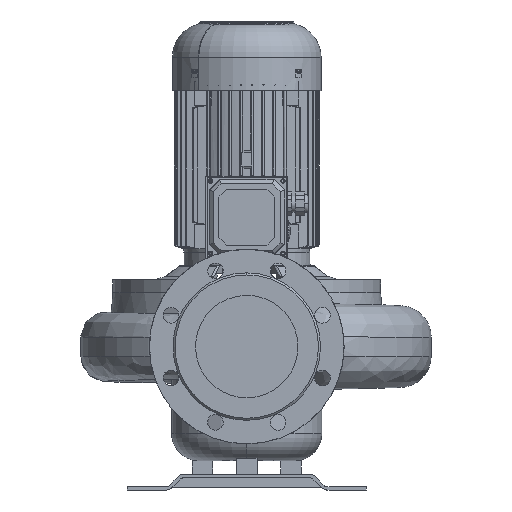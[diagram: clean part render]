
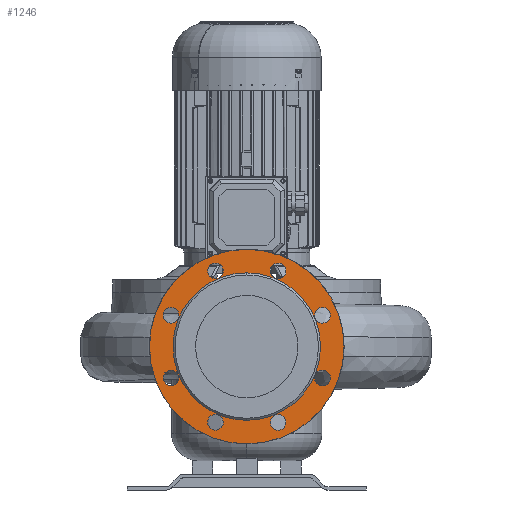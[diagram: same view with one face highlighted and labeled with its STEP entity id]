
A CAD part, front view. The second image highlights one B-rep face of the part: STEP entity #1246.
In plain terms, the highlighted planar face has unit normal (0, -1, 0) as drawn and (0, 1, 0) by its records, which use the part's own axes.
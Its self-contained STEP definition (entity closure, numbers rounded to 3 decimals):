
#1246=ADVANCED_FACE('',(#2458,#2459,#2460,#2461,#2462,#2463,#2464,#2465,#2466,#2467),#2468,.T.);
#1274=EDGE_CURVE('',#2511,#2512,#2513,.T.);
#1278=EDGE_CURVE('',#2519,#2520,#2521,.T.);
#1282=EDGE_CURVE('',#2527,#2528,#2529,.T.);
#1286=EDGE_CURVE('',#2535,#2536,#2537,.T.);
#1290=EDGE_CURVE('',#2543,#2544,#2545,.T.);
#1294=EDGE_CURVE('',#2551,#2552,#2553,.T.);
#1298=EDGE_CURVE('',#2559,#2560,#2561,.T.);
#1302=EDGE_CURVE('',#2567,#2568,#2569,.T.);
#1306=EDGE_CURVE('',#2575,#2576,#2577,.T.);
#1308=EDGE_CURVE('',#2579,#2580,#2581,.T.);
#1480=EDGE_CURVE('',#2580,#2579,#2839,.T.);
#1498=EDGE_CURVE('',#2576,#2575,#2857,.T.);
#1500=EDGE_CURVE('',#2568,#2567,#2859,.T.);
#1502=EDGE_CURVE('',#2560,#2559,#2861,.T.);
#1504=EDGE_CURVE('',#2552,#2551,#2863,.T.);
#1506=EDGE_CURVE('',#2544,#2543,#2865,.T.);
#1508=EDGE_CURVE('',#2536,#2535,#2867,.T.);
#1510=EDGE_CURVE('',#2528,#2527,#2869,.T.);
#1512=EDGE_CURVE('',#2520,#2519,#2871,.T.);
#1514=EDGE_CURVE('',#2512,#2511,#2873,.T.);
#2458=FACE_OUTER_BOUND('',#5705,.T.);
#2459=FACE_BOUND('',#5706,.T.);
#2460=FACE_BOUND('',#5707,.T.);
#2461=FACE_BOUND('',#5708,.T.);
#2462=FACE_BOUND('',#5709,.T.);
#2463=FACE_BOUND('',#5710,.T.);
#2464=FACE_BOUND('',#5711,.T.);
#2465=FACE_BOUND('',#5712,.T.);
#2466=FACE_BOUND('',#5713,.T.);
#2467=FACE_BOUND('',#5714,.T.);
#2468=PLANE('',#5715);
#2511=VERTEX_POINT('',#6779);
#2512=VERTEX_POINT('',#6780);
#2513=CIRCLE('',#6781,108.0);
#2519=VERTEX_POINT('',#6789);
#2520=VERTEX_POINT('',#6790);
#2521=CIRCLE('',#6791,11.5);
#2527=VERTEX_POINT('',#6799);
#2528=VERTEX_POINT('',#6800);
#2529=CIRCLE('',#6801,11.5);
#2535=VERTEX_POINT('',#6809);
#2536=VERTEX_POINT('',#6810);
#2537=CIRCLE('',#6811,11.5);
#2543=VERTEX_POINT('',#6819);
#2544=VERTEX_POINT('',#6820);
#2545=CIRCLE('',#6821,11.5);
#2551=VERTEX_POINT('',#6829);
#2552=VERTEX_POINT('',#6830);
#2553=CIRCLE('',#6831,11.5);
#2559=VERTEX_POINT('',#6839);
#2560=VERTEX_POINT('',#6840);
#2561=CIRCLE('',#6841,11.5);
#2567=VERTEX_POINT('',#6849);
#2568=VERTEX_POINT('',#6850);
#2569=CIRCLE('',#6851,11.5);
#2575=VERTEX_POINT('',#6859);
#2576=VERTEX_POINT('',#6860);
#2577=CIRCLE('',#6861,11.5);
#2579=VERTEX_POINT('',#6864);
#2580=VERTEX_POINT('',#6865);
#2581=CIRCLE('',#6866,142.5);
#2839=CIRCLE('',#7297,142.5);
#2857=CIRCLE('',#7324,11.5);
#2859=CIRCLE('',#7327,11.5);
#2861=CIRCLE('',#7330,11.5);
#2863=CIRCLE('',#7333,11.5);
#2865=CIRCLE('',#7336,11.5);
#2867=CIRCLE('',#7339,11.5);
#2869=CIRCLE('',#7342,11.5);
#2871=CIRCLE('',#7345,11.5);
#2873=CIRCLE('',#7348,108.0);
#5705=EDGE_LOOP('',(#12483,#12484));
#5706=EDGE_LOOP('',(#12485,#12486));
#5707=EDGE_LOOP('',(#12487,#12488));
#5708=EDGE_LOOP('',(#12489,#12490));
#5709=EDGE_LOOP('',(#12491,#12492));
#5710=EDGE_LOOP('',(#12493,#12494));
#5711=EDGE_LOOP('',(#12495,#12496));
#5712=EDGE_LOOP('',(#12497,#12498));
#5713=EDGE_LOOP('',(#12499,#12500));
#5714=EDGE_LOOP('',(#12501,#12502));
#5715=AXIS2_PLACEMENT_3D('',#12503,#12504,#12505);
#6779=CARTESIAN_POINT('',(0.,377.,-108.0));
#6780=CARTESIAN_POINT('',(0.,377.0,108.0));
#6781=AXIS2_PLACEMENT_3D('',#12607,#12608,#12609);
#6789=CARTESIAN_POINT('',(-117.353,377.0,-36.426));
#6790=CARTESIAN_POINT('',(-104.378,377.0,-55.418));
#6791=AXIS2_PLACEMENT_3D('',#12613,#12614,#12615);
#6799=CARTESIAN_POINT('',(-108.738,377.,57.224));
#6800=CARTESIAN_POINT('',(-112.993,377.,34.62));
#6801=AXIS2_PLACEMENT_3D('',#12619,#12620,#12621);
#6809=CARTESIAN_POINT('',(-36.426,377.,117.353));
#6810=CARTESIAN_POINT('',(-55.418,377.,104.378));
#6811=AXIS2_PLACEMENT_3D('',#12625,#12626,#12627);
#6819=CARTESIAN_POINT('',(57.224,377.,108.738));
#6820=CARTESIAN_POINT('',(34.62,377.,112.993));
#6821=AXIS2_PLACEMENT_3D('',#12631,#12632,#12633);
#6829=CARTESIAN_POINT('',(117.353,377.,36.426));
#6830=CARTESIAN_POINT('',(104.378,377.,55.418));
#6831=AXIS2_PLACEMENT_3D('',#12637,#12638,#12639);
#6839=CARTESIAN_POINT('',(108.738,377.,-57.224));
#6840=CARTESIAN_POINT('',(112.993,377.,-34.62));
#6841=AXIS2_PLACEMENT_3D('',#12643,#12644,#12645);
#6849=CARTESIAN_POINT('',(36.426,377.,-117.353));
#6850=CARTESIAN_POINT('',(55.418,377.0,-104.378));
#6851=AXIS2_PLACEMENT_3D('',#12649,#12650,#12651);
#6859=CARTESIAN_POINT('',(-57.224,377.,-108.738));
#6860=CARTESIAN_POINT('',(-34.62,377.,-112.993));
#6861=AXIS2_PLACEMENT_3D('',#12655,#12656,#12657);
#6864=CARTESIAN_POINT('',(0.,377.0,-142.5));
#6865=CARTESIAN_POINT('',(0.,377.,142.5));
#6866=AXIS2_PLACEMENT_3D('',#12658,#12659,#12660);
#7297=AXIS2_PLACEMENT_3D('',#12886,#12887,#12888);
#7324=AXIS2_PLACEMENT_3D('',#12913,#12914,#12915);
#7327=AXIS2_PLACEMENT_3D('',#12916,#12917,#12918);
#7330=AXIS2_PLACEMENT_3D('',#12919,#12920,#12921);
#7333=AXIS2_PLACEMENT_3D('',#12922,#12923,#12924);
#7336=AXIS2_PLACEMENT_3D('',#12925,#12926,#12927);
#7339=AXIS2_PLACEMENT_3D('',#12928,#12929,#12930);
#7342=AXIS2_PLACEMENT_3D('',#12931,#12932,#12933);
#7345=AXIS2_PLACEMENT_3D('',#12934,#12935,#12936);
#7348=AXIS2_PLACEMENT_3D('',#12937,#12938,#12939);
#12483=ORIENTED_EDGE('',*,*,#1480,.F.);
#12484=ORIENTED_EDGE('',*,*,#1308,.F.);
#12485=ORIENTED_EDGE('',*,*,#1274,.T.);
#12486=ORIENTED_EDGE('',*,*,#1514,.T.);
#12487=ORIENTED_EDGE('',*,*,#1278,.T.);
#12488=ORIENTED_EDGE('',*,*,#1512,.T.);
#12489=ORIENTED_EDGE('',*,*,#1282,.T.);
#12490=ORIENTED_EDGE('',*,*,#1510,.T.);
#12491=ORIENTED_EDGE('',*,*,#1286,.T.);
#12492=ORIENTED_EDGE('',*,*,#1508,.T.);
#12493=ORIENTED_EDGE('',*,*,#1290,.T.);
#12494=ORIENTED_EDGE('',*,*,#1506,.T.);
#12495=ORIENTED_EDGE('',*,*,#1294,.T.);
#12496=ORIENTED_EDGE('',*,*,#1504,.T.);
#12497=ORIENTED_EDGE('',*,*,#1298,.T.);
#12498=ORIENTED_EDGE('',*,*,#1502,.T.);
#12499=ORIENTED_EDGE('',*,*,#1302,.T.);
#12500=ORIENTED_EDGE('',*,*,#1500,.T.);
#12501=ORIENTED_EDGE('',*,*,#1306,.T.);
#12502=ORIENTED_EDGE('',*,*,#1498,.T.);
#12503=CARTESIAN_POINT('',(0.,377.,-125.25));
#12504=DIRECTION('',(0.0,1.0,0.0));
#12505=DIRECTION('',(0.0,0.0,1.0));
#12607=CARTESIAN_POINT('',(0.,377.0,0.));
#12608=DIRECTION('',(0.0,-1.0,0.0));
#12609=DIRECTION('',(0.,0.0,-1.0));
#12613=CARTESIAN_POINT('',(-110.866,377.0,-45.922));
#12614=DIRECTION('',(0.0,-1.0,0.0));
#12615=DIRECTION('',(-0.564,0.0,0.826));
#12619=CARTESIAN_POINT('',(-110.866,377.,45.922));
#12620=DIRECTION('',(0.0,-1.0,0.0));
#12621=DIRECTION('',(0.185,0.0,0.983));
#12625=CARTESIAN_POINT('',(-45.922,377.,110.866));
#12626=DIRECTION('',(0.0,-1.0,0.0));
#12627=DIRECTION('',(0.826,0.0,0.564));
#12631=CARTESIAN_POINT('',(45.922,377.,110.866));
#12632=DIRECTION('',(0.0,-1.0,0.0));
#12633=DIRECTION('',(0.983,0.0,-0.185));
#12637=CARTESIAN_POINT('',(110.866,377.,45.922));
#12638=DIRECTION('',(0.0,-1.0,0.0));
#12639=DIRECTION('',(0.564,0.0,-0.826));
#12643=CARTESIAN_POINT('',(110.866,377.,-45.922));
#12644=DIRECTION('',(0.0,-1.0,-0.0));
#12645=DIRECTION('',(-0.185,0.0,-0.983));
#12649=CARTESIAN_POINT('',(45.922,377.0,-110.866));
#12650=DIRECTION('',(0.0,-1.0,-0.0));
#12651=DIRECTION('',(-0.826,0.0,-0.564));
#12655=CARTESIAN_POINT('',(-45.922,377.,-110.866));
#12656=DIRECTION('',(0.0,-1.0,0.0));
#12657=DIRECTION('',(-0.983,0.0,0.185));
#12658=CARTESIAN_POINT('',(0.,377.0,0.));
#12659=DIRECTION('',(0.0,-1.0,0.0));
#12660=DIRECTION('',(0.,0.0,-1.0));
#12886=CARTESIAN_POINT('',(0.,377.0,0.));
#12887=DIRECTION('',(0.0,-1.0,0.0));
#12888=DIRECTION('',(0.,0.0,-1.0));
#12913=CARTESIAN_POINT('',(-45.922,377.,-110.866));
#12914=DIRECTION('',(0.0,-1.0,0.0));
#12915=DIRECTION('',(-0.983,0.0,0.185));
#12916=CARTESIAN_POINT('',(45.922,377.0,-110.866));
#12917=DIRECTION('',(0.0,-1.0,-0.0));
#12918=DIRECTION('',(-0.826,0.0,-0.564));
#12919=CARTESIAN_POINT('',(110.866,377.,-45.922));
#12920=DIRECTION('',(0.0,-1.0,-0.0));
#12921=DIRECTION('',(-0.185,0.0,-0.983));
#12922=CARTESIAN_POINT('',(110.866,377.,45.922));
#12923=DIRECTION('',(0.0,-1.0,0.0));
#12924=DIRECTION('',(0.564,0.0,-0.826));
#12925=CARTESIAN_POINT('',(45.922,377.,110.866));
#12926=DIRECTION('',(0.0,-1.0,0.0));
#12927=DIRECTION('',(0.983,0.0,-0.185));
#12928=CARTESIAN_POINT('',(-45.922,377.,110.866));
#12929=DIRECTION('',(0.0,-1.0,0.0));
#12930=DIRECTION('',(0.826,0.0,0.564));
#12931=CARTESIAN_POINT('',(-110.866,377.,45.922));
#12932=DIRECTION('',(0.0,-1.0,0.0));
#12933=DIRECTION('',(0.185,0.0,0.983));
#12934=CARTESIAN_POINT('',(-110.866,377.0,-45.922));
#12935=DIRECTION('',(0.0,-1.0,0.0));
#12936=DIRECTION('',(-0.564,0.0,0.826));
#12937=CARTESIAN_POINT('',(0.,377.0,0.));
#12938=DIRECTION('',(0.0,-1.0,0.0));
#12939=DIRECTION('',(0.,0.0,-1.0));
